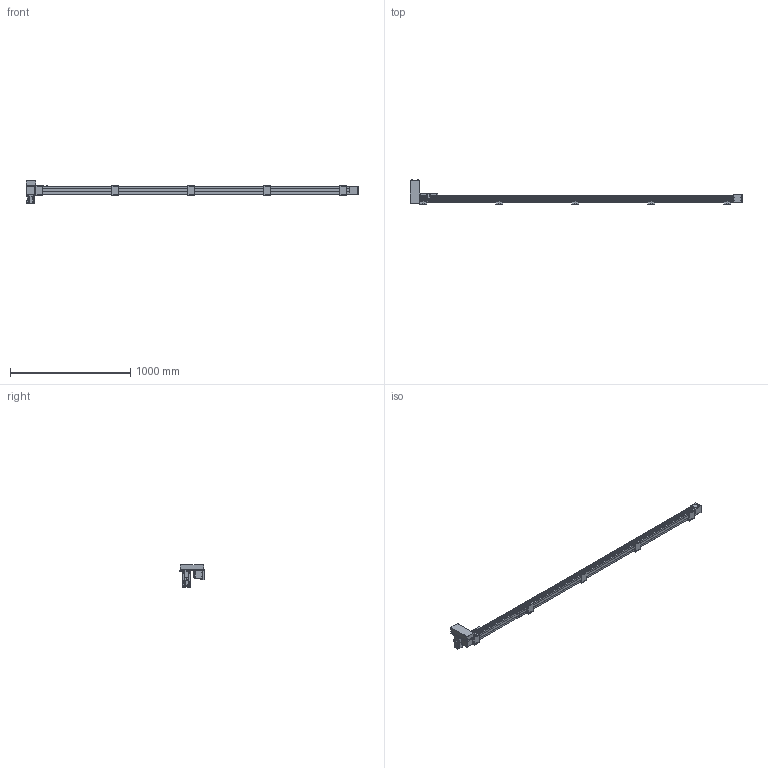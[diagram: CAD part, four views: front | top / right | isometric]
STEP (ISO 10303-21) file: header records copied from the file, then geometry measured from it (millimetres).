
FILE_DESCRIPTION(/* description */ ('STEP AP214'),/* implementation_level */ '2;1');
FILE_NAME(/* name */ 'SK60-P13-S2450-RU-T40-C1-N(0)',/* time_stamp */ '2023-04-06T05:05:35+02:00',/* author */ ('License CC BY-ND 4.0'),/* organization */ ('CADENAS'),/* preprocessor_version */ 'ST-DEVELOPER v19.3',/* originating_system */ 'PARTsolutions',/* authorisation */ ' ');
FILE_SCHEMA (('AUTOMOTIVE_DESIGN {1 0 10303 214 3 1 1}'));
Length unit declared in the file: millimetre
Products named in the file (10): SK60-P13-S2450-RU-T40-C1-N(0); PSC140-sensor; SK60-S450_seat; SK60-S450-BL-C1_slider; SK60_body3; SK60_body6; SK60-BL_body2; T40-p1; SK60-RU_fb; SK60-S2450-RU-C1_body
Assembly tree (19 placements, depth 2):
  SK60-P13-S2450-RU-T40-C1-N(0)
    PSC140-sensor  x3
    SK60-S450_seat  x5
    SK60-S450-BL-C1_slider
    SK60_body3  x3
    SK60_body6  x2
    SK60-BL_body2  x2
    T40-p1
    SK60-RU_fb
    SK60-S2450-RU-C1_body
Bounding box: 2755.5 x 201 x 189.7 mm (x, y, z)
Volume: 10528687.3 mm3; surface area: 1239149.6 mm2
Topology: 19 solids, 19 shells, 942 faces, 2342 edges, 1541 vertices
Faces by surface type: plane 596, cylinder 310, cone 34, torus 2
Full cylindrical faces by diameter (mm): 2.8 x3, 3.3 x4, 4 x2, 4.5 x30, 4.6 x3, 4.917 x28, 5 x6, 5.478 x4, 5.5 x31, 6.5 x10, 7 x2, 8 x4, 8.5 x4, 9.988 x4, 10 x20, 14 x1, 47 x3, 50 x2
Entity records: 18679 total; most frequent: DIRECTION 3190, CARTESIAN_POINT 3153, ORIENTED_EDGE 2940, EDGE_CURVE 1470, AXIS2_PLACEMENT_3D 1071, LINE 1048, VECTOR 1048, VERTEX_POINT 1034
